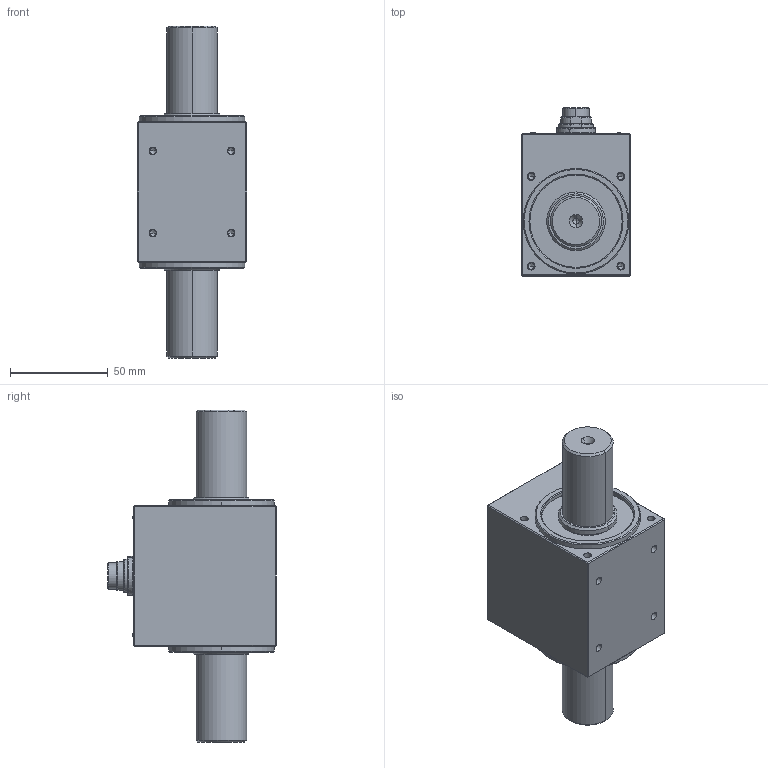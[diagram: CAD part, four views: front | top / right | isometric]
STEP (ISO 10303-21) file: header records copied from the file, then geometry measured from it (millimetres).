
FILE_DESCRIPTION((''),'2;1');
FILE_NAME('T21WN_50-200','2019-07-26T',('ESCHE'),(''),'CREO PARAMETRIC BY PTC INC, 2017170','CREO PARAMETRIC BY PTC INC, 2017170','');
FILE_SCHEMA(('AUTOMOTIVE_DESIGN { 1 0 10303 214 1 1 1 1 }'));
Length unit declared in the file: millimetre
Products named in the file (1): T21WN_50-200
Bounding box: 56 x 86.1 x 170 mm (x, y, z)
Volume: 349106.2 mm3; surface area: 40117.2 mm2
Topology: 1 solids, 1 shells, 327 faces, 743 edges, 450 vertices
Faces by surface type: bspline 327
Entity records: 13619 total; most frequent: CARTESIAN_POINT 6964, ORIENTED_EDGE 1430, DIRECTION 1072, EDGE_CURVE 715, VERTEX_POINT 450, EDGE_LOOP 389, AXIS2_PLACEMENT_3D 381, CIRCLE 381
